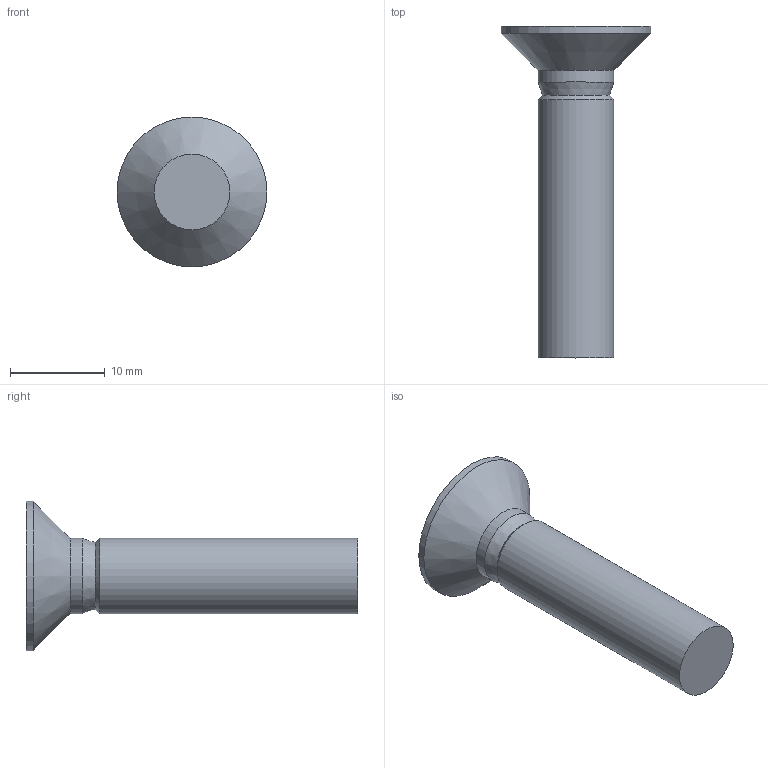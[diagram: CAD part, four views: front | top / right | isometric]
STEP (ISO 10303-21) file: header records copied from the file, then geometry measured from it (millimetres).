
FILE_DESCRIPTION(/* description */ (''),/* implementation_level */ '2;1');
FILE_NAME(/* name */ 'C:\Users\unitec\Documents\Inventor\HP\ボルト\JIS B 1111 十字穴付き皿小ねじ\IPT\CHWCSS-M8\CHWCSS-M8-35.stp',/* time_stamp */ '2016-12-24T16:30:24+09:00',/* author */ ('unitec'),/* organization */ (''),/* preprocessor_version */ 'ST-DEVELOPER v15.2',/* originating_system */ 'Autodesk Inventor 2014',/* authorisation */ '');
FILE_SCHEMA (('AUTOMOTIVE_DESIGN { 1 0 10303 214 3 1 1 }'));
Length unit declared in the file: millimetre
Products named in the file (1): CHWCSS-M8-35
Bounding box: 15.8 x 35 x 15.8 mm (x, y, z)
Volume: 2052 mm3; surface area: 1308.2 mm2
Topology: 1 solids, 1 shells, 33 faces, 77 edges, 43 vertices
Faces by surface type: plane 23, bspline 4, cylinder 3, cone 3
Full cylindrical faces by diameter (mm): 8 x2, 15.8 x1
Entity records: 1057 total; most frequent: CARTESIAN_POINT 400, ORIENTED_EDGE 134, DIRECTION 106, EDGE_CURVE 67, VERTEX_POINT 43, EDGE_LOOP 40, AXIS2_PLACEMENT_3D 37, ADVANCED_FACE 33
